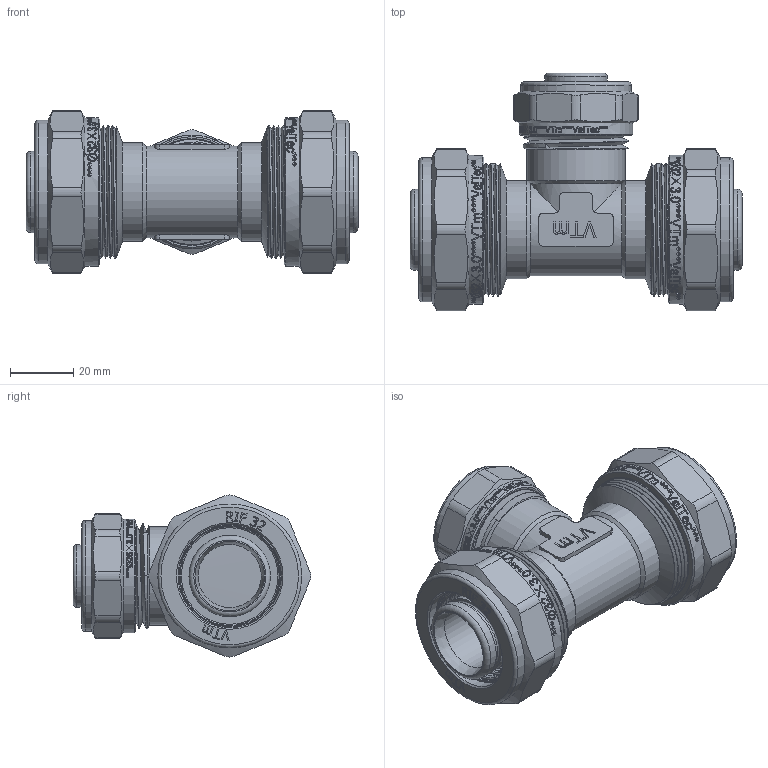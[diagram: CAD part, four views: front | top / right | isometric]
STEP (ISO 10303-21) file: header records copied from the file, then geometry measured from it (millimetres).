
FILE_DESCRIPTION(/* description */ (''),/* implementation_level */ '2;1');
FILE_NAME(/* name */ 'E:\Артём\00000\Работа удаленка\Обжимные фитинги\VTm.331.N.322632.stp',/* time_stamp */ '2020-06-30T12:49:46+03:00',/* author */ ('BeN_GaN'),/* organization */ (''),/* preprocessor_version */ 'ST-DEVELOPER v18',/* originating_system */ 'Autodesk Inventor 2020',/* authorisation */ '');
FILE_SCHEMA (('AUTOMOTIVE_DESIGN { 1 0 10303 214 3 1 1 }'));
Length unit declared in the file: millimetre
Products named in the file (1): VTm.331.N.322632
Bounding box: 105 x 75.15 x 51.3 mm (x, y, z)
Volume: 98532.6 mm3; surface area: 53023.2 mm2
Topology: 1 solids, 1 shells, 2069 faces, 5885 edges, 3969 vertices
Faces by surface type: bspline 1132, plane 561, cylinder 260, torus 72, cone 44
Full cylindrical faces by diameter (mm): 15 x1, 17.4 x2, 19.8 x5, 20 x1, 23.4 x4, 24.516 x4, 25.435 x5, 25.75 x10, 26.2 x1, 26.7 x1, 28.5 x1, 28.7 x2, 29 x1, 30.5 x1, 30.538 x8, 31 x3, 31.683 x10, 32.2 x2, 32.7 x2, 33.3 x1, 35 x1, 35.5 x2, 36 x1, 40.38 x16, 40.5 x7, 42 x6, 45.5 x2, 47 x2
Entity records: 91115 total; most frequent: CARTESIAN_POINT 44625, ORIENTED_EDGE 11778, DIRECTION 6068, EDGE_CURVE 5889, VERTEX_POINT 3973, B_SPLINE_CURVE_WITH_KNOTS 2497, LINE 2496, VECTOR 2496
